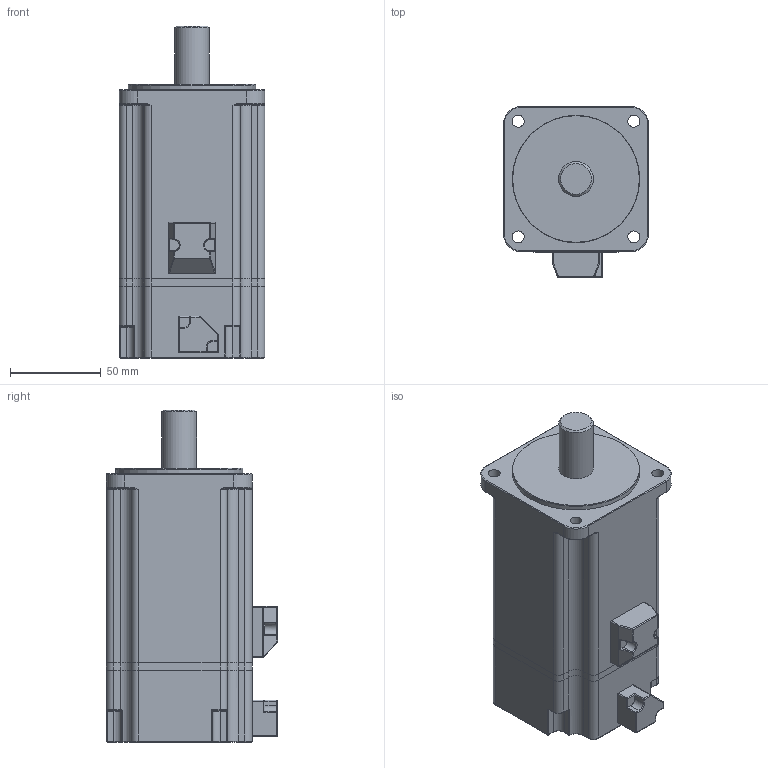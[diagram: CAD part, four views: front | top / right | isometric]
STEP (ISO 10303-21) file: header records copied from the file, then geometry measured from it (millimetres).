
FILE_DESCRIPTION(/* description */ (''),/* implementation_level */ '2;1');
FILE_NAME(/* name */ '80-MSL02430 (2.39Nm、3.18Nm）.stp',/* time_stamp */ '2019-11-22T13:33:46+08:00',/* author */ (''),/* organization */ (''),/* preprocessor_version */ 'ST-DEVELOPER v16',/* originating_system */ 'SIEMENS PLM Software NX 10.0',/* authorisation */ '');
FILE_SCHEMA (('CONFIG_CONTROL_DESIGN'));
Length unit declared in the file: millimetre
Products named in the file (1): 80-MSL02430 (2.39Nm、3.18Nm）
Bounding box: 80 x 94 x 182.5 mm (x, y, z)
Volume: 870720.3 mm3; surface area: 86231.4 mm2
Topology: 5 solids, 5 shells, 349 faces, 837 edges, 470 vertices
Faces by surface type: cylinder 158, plane 95, torus 51, sphere 27, bspline 16, cone 2
Full cylindrical faces by diameter (mm): 6.6 x4, 19 x1, 70 x1
Entity records: 10041 total; most frequent: CARTESIAN_POINT 1947, DIRECTION 1831, ORIENTED_EDGE 1590, EDGE_CURVE 795, AXIS2_PLACEMENT_3D 726, VERTEX_POINT 466, LINE 379, VECTOR 379
